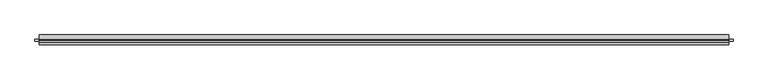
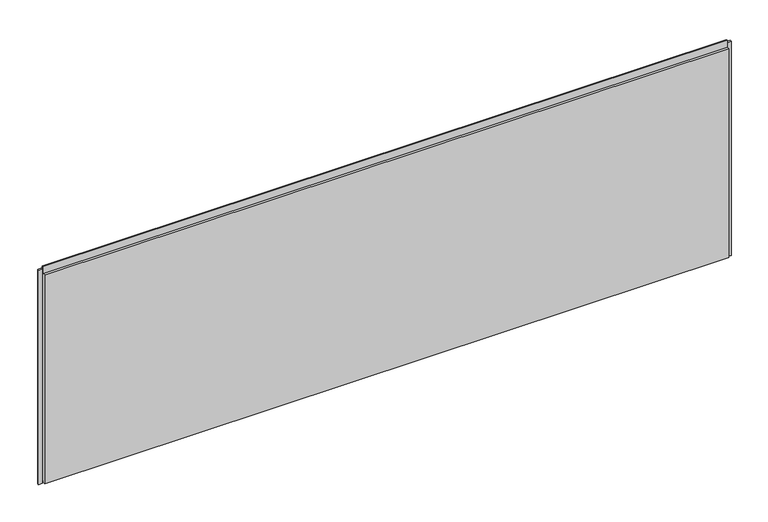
"""IFC4 building model written with IfcOpenShell, lengths in millimetres: plate geometry, Trimo_Qbiss Screen_Normal Panel-HORIZONTAL : HR - B."""

import ifcopenshell
import ifcopenshell.guid

model = None  # the IFC model being written
_history = None  # IfcOwnerHistory: only IFC2X3 demands one
_inside = {}  # id of a spatial element -> (the spatial element, [elements in it])
_under = {}  # id of a project, library or spatial element -> (it, [spatial elements below it])
_declared = {}  # id of a project -> (the project, [libraries it declares])
_typed = {}  # id of a type object -> (the type object, [elements of that type])
_made_of = {}  # id of a material, layer set ... -> (it, [elements and type objects made of it])


def new_model(schema):
    """Start an empty IFC model of exactly this schema.

    Asked for "IFC4X3", IfcOpenShell would pick the latest addendum, in which some entities
    have other attributes; the version numbers below select the first issue.
    IFC2X3 requires an IfcOwnerHistory on every rooted entity: one is made here for all.
    """
    global model, _history
    if schema == "IFC4X3":
        model = ifcopenshell.file(schema_version=(4, 3, 0, 0))
    else:
        model = ifcopenshell.file(schema=schema)
    _inside.clear()
    _under.clear()
    _declared.clear()
    _typed.clear()
    _made_of.clear()
    _history = None
    if model.schema == "IFC2X3":
        org = make("IfcOrganization", Name="unknown")
        user = make(
            "IfcPersonAndOrganization",
            ThePerson=make("IfcPerson", FamilyName="unknown"),
            TheOrganization=org,
        )
        app = make(
            "IfcApplication",
            ApplicationDeveloper=org,
            Version="unknown",
            ApplicationFullName="unknown",
            ApplicationIdentifier="unknown",
        )
        _history = make(
            "IfcOwnerHistory",
            OwningUser=user,
            OwningApplication=app,
            ChangeAction="ADDED",
            CreationDate=0,
        )
    return model


def make(cls, **values):
    """One entity of the class cls with the attributes given. An attribute that is None is left unset."""
    return model.create_entity(
        cls, **{name: value for name, value in values.items() if value is not None}
    )


def rooted(cls, **values):
    """An entity with a GlobalId (a new one), such as an element, a storey or a relation."""
    return make(cls, GlobalId=ifcopenshell.guid.new(), OwnerHistory=_history, **values)


def si_unit(unit_type, name, prefix=None):
    """IfcSIUnit, for example si_unit("LENGTHUNIT", "METRE", prefix="MILLI")."""
    return make("IfcSIUnit", UnitType=unit_type, Prefix=prefix, Name=name)


def assignment(units):
    """IfcUnitAssignment: the units of a project."""
    return None if units is None else make("IfcUnitAssignment", Units=units)


def point(xyz):
    """IfcCartesianPoint."""
    return None if xyz is None else make("IfcCartesianPoint", Coordinates=xyz)


def direction(xyz):
    """IfcDirection."""
    return None if xyz is None else make("IfcDirection", DirectionRatios=xyz)


def frame(location, z_axis=None, x_axis=None):
    """IfcAxis2Placement3D, a coordinate frame: its origin and axes. An axis left out is left unset."""
    return make(
        "IfcAxis2Placement3D",
        Location=point(location),
        Axis=direction(z_axis),
        RefDirection=direction(x_axis),
    )


def origin():
    """The frame at (0, 0, 0) with its axes left unset."""
    return frame((0.0, 0.0, 0.0))


def place(relative_to, where):
    """IfcLocalPlacement: puts the frame where relative to a parent placement (None: the world)."""
    return make(
        "IfcLocalPlacement", PlacementRelTo=relative_to, RelativePlacement=where
    )


def context(
    kind, dimensions, precision=None, world=None, true_north=None, identifier=None
):
    """IfcGeometricRepresentationContext, for example the 3D "Model" context."""
    return make(
        "IfcGeometricRepresentationContext",
        ContextIdentifier=identifier,
        ContextType=kind,
        CoordinateSpaceDimension=dimensions,
        Precision=precision,
        WorldCoordinateSystem=world,
        TrueNorth=true_north,
    )


def project(units=None, contexts=None):
    """IfcProject with its units and contexts."""
    return rooted(
        "IfcProject",
        Name="project",
        RepresentationContexts=contexts,
        UnitsInContext=assignment(units),
    )


def spatial(cls, under=None, at=None, **own):
    """A site, building, storey or space (cls), placed at a placement, below another one or the project."""
    s = rooted(cls, ObjectPlacement=at, **own)
    if under is not None:
        _under.setdefault(under.id(), (under, []))[1].append(s)
    return s


def polyline(points):
    """IfcPolyline through the points."""
    return make("IfcPolyline", Points=[point(p) for p in points])


def outline(outer, holes=None, kind="AREA"):
    """IfcArbitraryClosedProfileDef: a profile drawn as a closed curve; with holes, ...WithVoids."""
    if holes is None:
        return make("IfcArbitraryClosedProfileDef", ProfileType=kind, OuterCurve=outer)
    return make(
        "IfcArbitraryProfileDefWithVoids",
        ProfileType=kind,
        OuterCurve=outer,
        InnerCurves=holes,
    )


def extrude(swept, where, along, depth):
    """IfcExtrudedAreaSolid: the profile swept, set in the frame where, extruded along a direction by depth."""
    return make(
        "IfcExtrudedAreaSolid",
        SweptArea=swept,
        Position=where,
        ExtrudedDirection=direction(along),
        Depth=depth,
    )


def shape(context_of_items, identifier, shape_type, items):
    """IfcShapeRepresentation: the items that make up one representation, for example the "Body"."""
    return make(
        "IfcShapeRepresentation",
        ContextOfItems=context_of_items,
        RepresentationIdentifier=identifier,
        RepresentationType=shape_type,
        Items=items,
    )


def source(mapping_origin, context_of_items, identifier, shape_type, items):
    """IfcRepresentationMap: a shape defined once, which mapped items show again and again."""
    return make(
        "IfcRepresentationMap",
        MappingOrigin=mapping_origin,
        MappedRepresentation=shape(context_of_items, identifier, shape_type, items),
    )


def transform(
    local_origin,
    x_axis=None,
    y_axis=None,
    z_axis=None,
    scale=None,
    scale2=None,
    scale3=None,
    uniform=True,
):
    """IfcCartesianTransformationOperator3D, or its non-uniform kind. x_axis, y_axis, z_axis: its Axis1, 2, 3."""
    if uniform:
        return make(
            "IfcCartesianTransformationOperator3D",
            Axis1=direction(x_axis),
            Axis2=direction(y_axis),
            LocalOrigin=point(local_origin),
            Scale=scale,
            Axis3=direction(z_axis),
        )
    return make(
        "IfcCartesianTransformationOperator3DnonUniform",
        Axis1=direction(x_axis),
        Axis2=direction(y_axis),
        LocalOrigin=point(local_origin),
        Scale=scale,
        Axis3=direction(z_axis),
        Scale2=scale2,
        Scale3=scale3,
    )


def mapped(mapping_source, mapping_target):
    """IfcMappedItem: shows the shape of a source again, moved by a transform."""
    return make(
        "IfcMappedItem", MappingSource=mapping_source, MappingTarget=mapping_target
    )


def made_of(thing, what):
    """Note that an element or type object is made of a material, layer set ...; save() writes the relation."""
    if what is not None:
        _made_of.setdefault(what.id(), (what, []))[1].append(thing)
    return thing


def element(
    cls,
    number,
    at=None,
    inside=None,
    cuts=None,
    type_object=None,
    material=None,
    context=None,
    identifier="Body",
    shape_type=None,
    held_by="IfcProductDefinitionShape",
    body=None,
    shapes=None,
    **own,
):
    """One element of the class cls, such as IfcWall. Its Tag is "e" and its number.

    at: its placement. inside: the storey or other place that contains it. cuts: it is an
    opening in that element (IfcRelVoidsElement). A single representation is given by context,
    identifier, shape_type and body (its items); several are given by shapes. held_by: the class
    of the entity that holds the representations. save() writes the other relations.
    """
    e = rooted(cls, Tag="e%d" % number, ObjectPlacement=at, **own)
    if body is not None:
        shapes = [shape(context, identifier, shape_type, body)]
    if shapes is not None:
        e.Representation = make(held_by, Representations=shapes)
    if inside is not None:
        _inside.setdefault(inside.id(), (inside, []))[1].append(e)
    if cuts is not None:
        rooted(
            "IfcRelVoidsElement", RelatingBuildingElement=cuts, RelatedOpeningElement=e
        )
    if type_object is not None:
        _typed.setdefault(type_object.id(), (type_object, []))[1].append(e)
    return made_of(e, material)


def aggregate(whole, parts):
    """IfcRelAggregates: a whole, such as a stair, and the parts it consists of."""
    return rooted("IfcRelAggregates", RelatingObject=whole, RelatedObjects=parts)


def save(model, path):
    """Write the relations noted so far, then the file.

    IfcRelAggregates (storeys below a building ...), IfcRelContainedInSpatialStructure (elements
    in a storey), IfcRelDefinesByType, IfcRelAssociatesMaterial and IfcRelDeclares: one each for
    every whole, place, type object, material and project.
    """
    for whole, parts in _under.values():
        aggregate(whole, parts)
    for where, things in _inside.values():
        rooted(
            "IfcRelContainedInSpatialStructure",
            RelatedElements=things,
            RelatingStructure=where,
        )
    for kind, things in _typed.values():
        rooted("IfcRelDefinesByType", RelatedObjects=things, RelatingType=kind)
    for what, things in _made_of.values():
        rooted("IfcRelAssociatesMaterial", RelatedObjects=things, RelatingMaterial=what)
    for by, libraries in _declared.values():
        rooted("IfcRelDeclares", RelatingContext=by, RelatedDefinitions=libraries)
    model.write(path)


def plate_4e06be92(model_context):
    return source(origin(), model_context, "Body", "SweptSolid", [
        extrude(outline(polyline([(-1771.75, 76.5978162), (-1771.75, 67.8978162), (-1790.75, 67.8978162), (-1790.75, 76.5978162), (-1771.75, 76.5978162)])), frame((0.0, 0.0, -1.0), z_axis=(0.0, 0.0, 1.0), x_axis=(1.0, 0.0, 0.0)), (0.0, 0.0, 1.0), 1172.5),
        extrude(outline(polyline([(1771.75, 67.8978162), (1771.75, 76.5978162), (1790.75, 76.5978162), (1790.75, 67.8978162), (1771.75, 67.8978162)])), frame((0.0, 0.0, -1.0), z_axis=(0.0, 0.0, 1.0), x_axis=(1.0, 0.0, 0.0)), (0.0, 0.0, 1.0), 1172.5),
        extrude(outline(polyline([(1768.75, 76.0), (1768.75, 71.0), (-1768.75, 71.0), (-1768.75, 76.0), (1768.75, 76.0)])), frame((0.0, 0.0, 1150.5), z_axis=(0.0, 0.0, 1.0), x_axis=(1.0, 0.0, 0.0)), (0.0, 0.0, 1.0), 21.0),
        extrude(outline(polyline([(71.0, 1149.5), (100.0, 1149.5), (100.0, 0.0), (72.0, 0.0), (72.0, 15.5), (62.0, 15.5), (62.0, 7.0), (50.0, 7.0), (50.0, 1149.5), (63.0, 1149.5), (63.0, 1187.0), (71.0, 1187.0), (71.0, 1149.5)])), frame((-1768.75, 0.0, 0.0), z_axis=(1.0, 0.0, 0.0), x_axis=(0.0, 1.0, 0.0)), (0.0, 0.0, 1.0), 3537.5),
    ])


if __name__ == "__main__":
    model = new_model("IFC4")
    model_context = context("Model", 3, world=origin())
    ifc_project = project(units=[si_unit("LENGTHUNIT", "METRE", prefix="MILLI")], contexts=[model_context])
    site = spatial("IfcSite", under=ifc_project)
    building = spatial("IfcBuilding", under=site)
    placement = place(None, origin())
    plate_shape = plate_4e06be92(model_context)
    element("IfcPlate", 1, ObjectType="Trimo_Qbiss Screen_Normal Panel-HORIZONTAL : HR - B", at=placement, inside=building, context=model_context, shape_type="MappedRepresentation", body=[
        mapped(plate_shape, transform((0.0, 0.0, 0.0), x_axis=(1.0, 0.0, 0.0), y_axis=(0.0, 1.0, 0.0), z_axis=(0.0, 0.0, 1.0))),
    ])
    save(model, "model.ifc")
